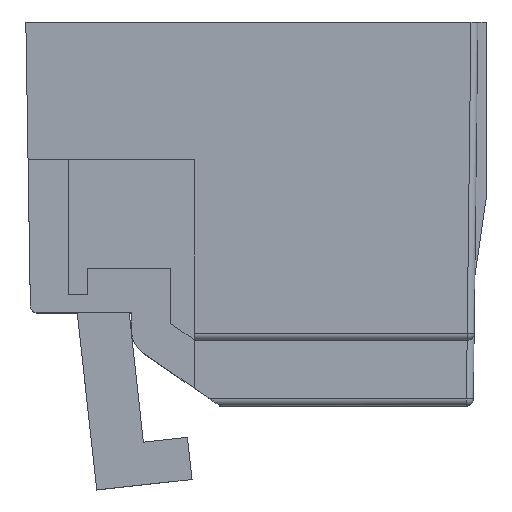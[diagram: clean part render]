
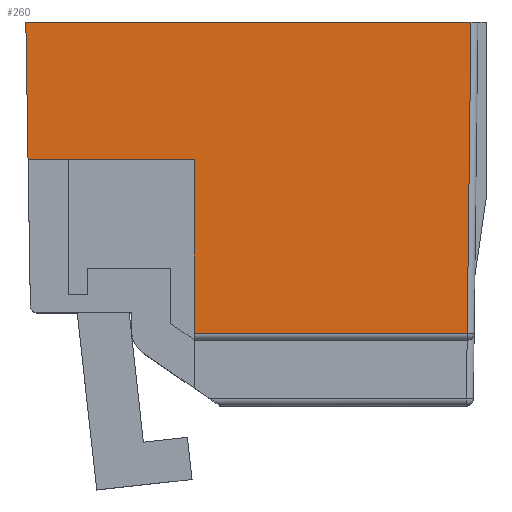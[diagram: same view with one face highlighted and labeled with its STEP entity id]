
A CAD part, top view. The second image highlights one B-rep face of the part: STEP entity #260.
In plain terms, the highlighted planar face has unit normal (0, -0.015, 1).
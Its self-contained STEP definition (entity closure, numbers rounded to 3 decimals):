
#163=FACE_OUTER_BOUND('',#445,.T.);
#260=ADVANCED_FACE('',(#163),#355,.F.);
#355=PLANE('',#1918);
#445=EDGE_LOOP('',(#853,#854,#855,#856,#857,#858));
#853=ORIENTED_EDGE('',*,*,#1253,.F.);
#854=ORIENTED_EDGE('',*,*,#1366,.T.);
#855=ORIENTED_EDGE('',*,*,#1367,.T.);
#856=ORIENTED_EDGE('',*,*,#1278,.T.);
#857=ORIENTED_EDGE('',*,*,#1154,.F.);
#858=ORIENTED_EDGE('',*,*,#1161,.F.);
#990=VERTEX_POINT('',#2457);
#991=VERTEX_POINT('',#2459);
#996=VERTEX_POINT('',#2471);
#1073=VERTEX_POINT('',#2657);
#1087=VERTEX_POINT('',#2707);
#1141=VERTEX_POINT('',#2888);
#1154=EDGE_CURVE('',#990,#991,#1408,.T.);
#1161=EDGE_CURVE('',#996,#990,#1415,.T.);
#1253=EDGE_CURVE('',#1073,#996,#1497,.T.);
#1278=EDGE_CURVE('',#1087,#991,#1519,.T.);
#1366=EDGE_CURVE('',#1073,#1141,#1602,.T.);
#1367=EDGE_CURVE('',#1141,#1087,#1603,.T.);
#1408=LINE('',#2458,#1624);
#1415=LINE('',#2473,#1631);
#1497=LINE('',#2658,#1713);
#1519=LINE('',#2706,#1735);
#1602=LINE('',#2887,#1818);
#1603=LINE('',#2889,#1819);
#1624=VECTOR('',#1974,1.);
#1631=VECTOR('',#1983,1.);
#1713=VECTOR('',#2119,1.);
#1735=VECTOR('',#2167,1.);
#1818=VECTOR('',#2330,1.);
#1819=VECTOR('',#2331,1.);
#1918=AXIS2_PLACEMENT_3D('',#2890,#2332,#2333);
#1974=DIRECTION('',(-0.016,1.,0.014));
#1983=DIRECTION('',(-1.,0.,0.));
#2119=DIRECTION('',(0.,1.,0.014));
#2167=DIRECTION('',(-1.,0.,0.));
#2330=DIRECTION('',(1.,0.,0.));
#2331=DIRECTION('',(0.012,1.,0.014));
#2332=DIRECTION('',(0.,0.014,-1.));
#2333=DIRECTION('',(1.,0.,0.));
#2457=CARTESIAN_POINT('',(-148.964,26.867,-0.216));
#2458=CARTESIAN_POINT('',(-149.201,41.767,0.));
#2459=CARTESIAN_POINT('',(-149.201,41.767,0.));
#2471=CARTESIAN_POINT('',(-130.951,26.867,-0.216));
#2473=CARTESIAN_POINT('',(-120.601,26.867,-0.216));
#2657=CARTESIAN_POINT('',(-130.951,8.006,-0.489));
#2658=CARTESIAN_POINT('',(-130.951,7.267,-0.5));
#2706=CARTESIAN_POINT('',(-100.201,41.767,0.));
#2707=CARTESIAN_POINT('',(-100.95,41.767,0.));
#2887=CARTESIAN_POINT('',(-120.601,8.006,-0.489));
#2888=CARTESIAN_POINT('',(-101.356,8.006,-0.489));
#2889=CARTESIAN_POINT('',(-101.368,7.035,-0.503));
#2890=CARTESIAN_POINT('',(-120.601,7.267,-0.5));
